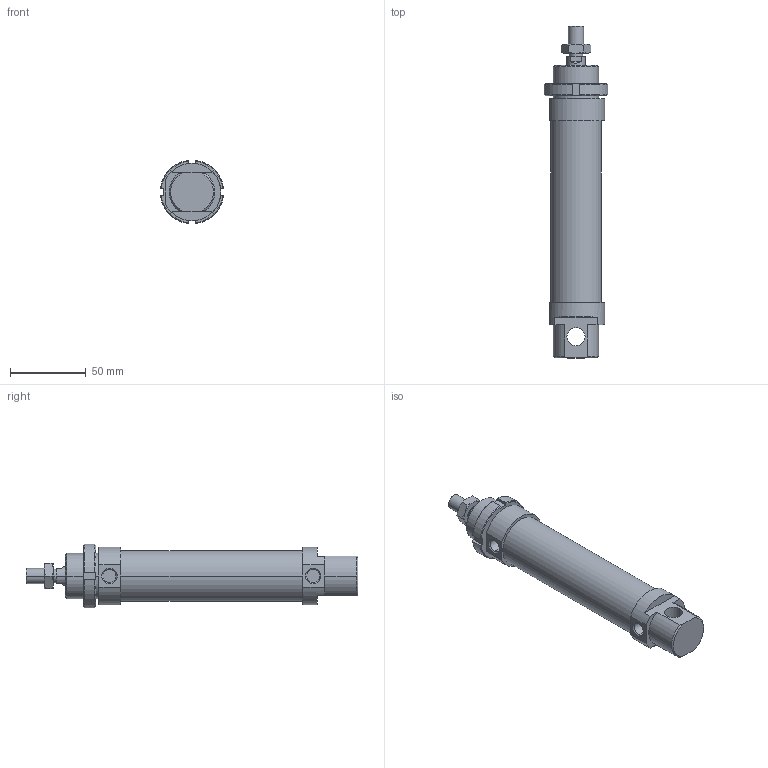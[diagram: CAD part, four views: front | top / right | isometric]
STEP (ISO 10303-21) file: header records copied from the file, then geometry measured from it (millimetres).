
FILE_DESCRIPTION((''),'2;1');
FILE_NAME('I:\DOC-EDP\Lib-3d\1200\CILINDRI\1280\1280_32_0080.stp','2003-04-07T19:04:26',('maffial1'),(''),'Autodesk Inventor (R) 6.0','Autodesk Inventor (R) 6.0','');
FILE_SCHEMA(('AUTOMOTIVE_DESIGN { 1 0 10303 214 1 1 1 1 }'));
Length unit declared in the file: millimetre
Products named in the file (5): 1280_32_0080; S1280_32_80; 1200_32_05; 1200_32_06; C1280_32_80
Assembly tree (4 placements, depth 2):
  1280_32_0080
    S1280_32_80
    1200_32_05
    1200_32_06
    C1280_32_80
Bounding box: 41.7 x 219 x 41.7 mm (x, y, z)
Volume: 172627.4 mm3; surface area: 37973.3 mm2
Topology: 4 solids, 4 shells, 122 faces, 286 edges, 180 vertices
Faces by surface type: plane 44, cone 32, cylinder 26, bspline 20
Entity records: 3831 total; most frequent: CARTESIAN_POINT 997, DIRECTION 582, ORIENTED_EDGE 572, EDGE_CURVE 286, AXIS2_PLACEMENT_3D 229, VERTEX_POINT 180, EDGE_LOOP 136, VECTOR 124
